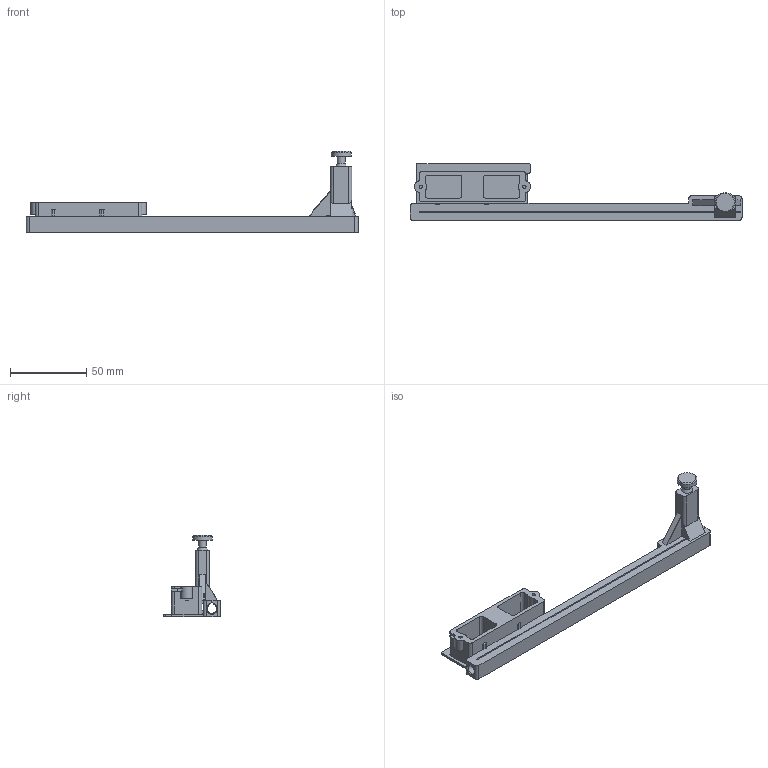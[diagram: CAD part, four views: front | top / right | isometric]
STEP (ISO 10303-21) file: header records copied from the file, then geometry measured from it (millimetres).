
FILE_DESCRIPTION(('Open CASCADE Model'),'2;1');
FILE_NAME('Open CASCADE Shape Model','2026-10-21T17:27:39',('Author'),( 'Open CASCADE'),'Open CASCADE STEP processor 7.9','Open CASCADE 7.9' ,'Unknown');
FILE_SCHEMA(('AUTOMOTIVE_DESIGN { 1 0 10303 214 1 1 1 1 }'));
Length unit declared in the file: millimetre
Products named in the file (1): Open CASCADE STEP translator 7.9 10
Bounding box: 217.64 x 37.3 x 53.2 mm (x, y, z)
Volume: 40874.5 mm3; surface area: 28367.7 mm2
Topology: 1 solids, 1 shells, 202 faces, 600 edges, 399 vertices
Faces by surface type: plane 145, cylinder 54, cone 3
Full cylindrical faces by diameter (mm): 2.2 x4, 5 x1, 13 x1
Entity records: 14378 total; most frequent: CARTESIAN_POINT 3123, DIRECTION 1888, ORIENTED_EDGE 1200, PCURVE 1200, DEFINITIONAL_REPRESENTATION 1200, LINE 1150, VECTOR 1150, EDGE_CURVE 600
